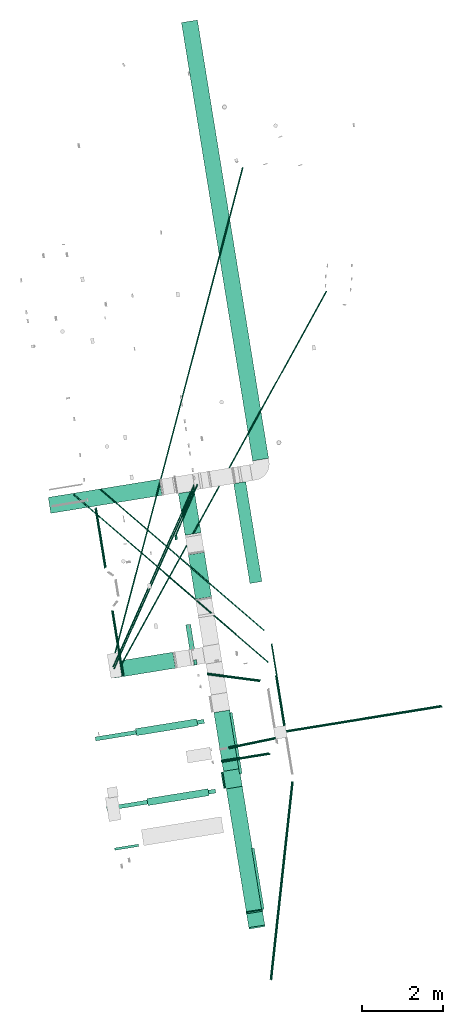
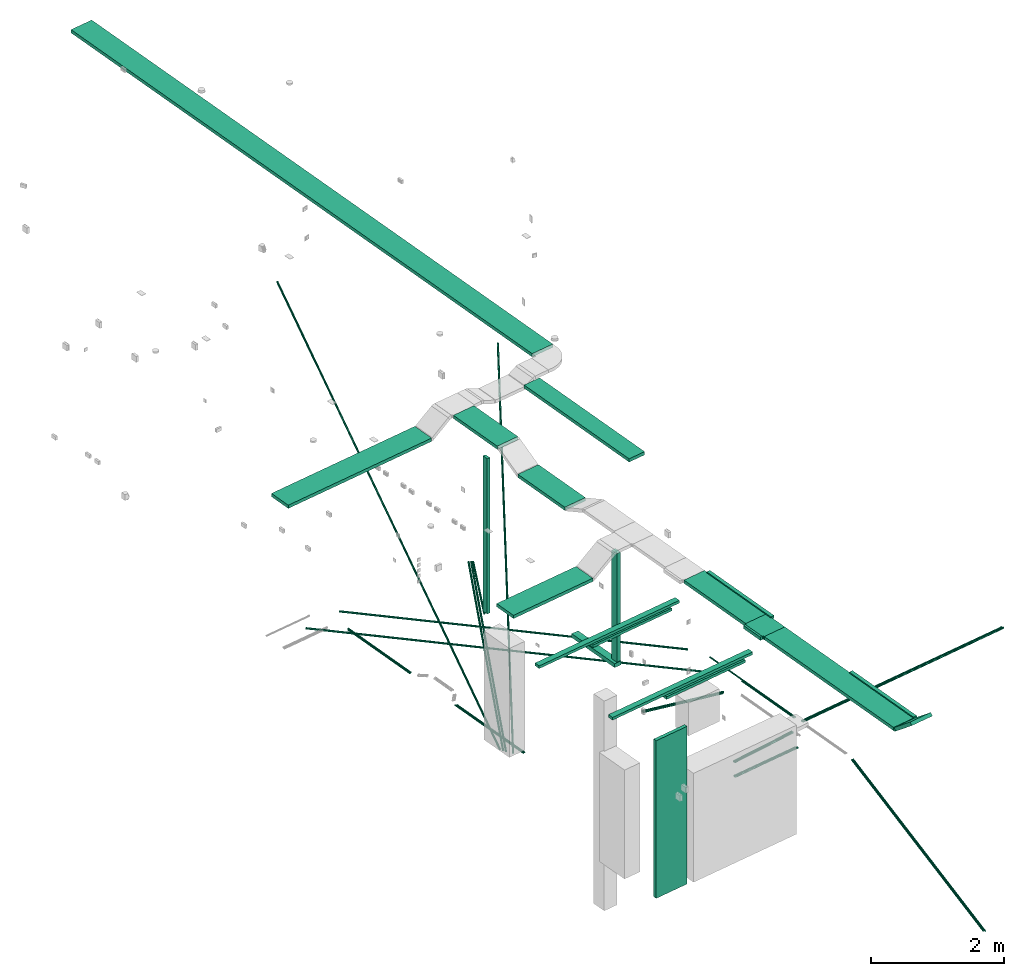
# One storey, part 1 of 33: 39 flow segments, 4 flow terminals, 2 flow fittings.
"""IFC2X3 building model written with IfcOpenShell, lengths in millimetres."""

from ifc_helpers import new_model, entity, si_unit, converted_unit, derived_unit, direction, frame, frame_2d, origin, origin_with_axes, origin_2d_with_axis, place, context, subcontext, project, spatial, polyline, circle_curve, parameter, trimmed, segment, composite_curve, rectangle, circle, outline, extrude, source, transform, mapped, material, type_object, element, save


model = new_model("IFC2X3")

# Units and contexts
plan_context = context("Plan", 3, precision=1e-05, world=origin_with_axes())
model_context = context("Model", 3, precision=0.01, world=origin(), true_north=direction((6.12323399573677e-17, 1.0)))
body_context = subcontext(model_context, "Body", "Model", "MODEL_VIEW")
ifc_project = project(units=[converted_unit("PLANEANGLEUNIT", "DEGREE", entity("IfcPositiveLengthMeasure", 0.0174532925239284), si_unit("PLANEANGLEUNIT", "RADIAN"), dimensions=[0, 0, 0, 0, 0, 0, 0]), si_unit("AREAUNIT", "SQUARE_METRE"), si_unit("LENGTHUNIT", "METRE", prefix="MILLI"), si_unit("MASSUNIT", "GRAM", prefix="KILO"), si_unit("POWERUNIT", "WATT"), si_unit("PRESSUREUNIT", "PASCAL", prefix="KILO"), si_unit("FORCEUNIT", "NEWTON", prefix="KILO"), si_unit("ELECTRICVOLTAGEUNIT", "VOLT"), si_unit("ELECTRICCURRENTUNIT", "AMPERE"), si_unit("THERMODYNAMICTEMPERATUREUNIT", "DEGREE_CELSIUS"), si_unit("TIMEUNIT", "SECOND"), si_unit("VOLUMEUNIT", "CUBIC_METRE"), derived_unit("LINEARVELOCITYUNIT", [(si_unit("LENGTHUNIT", "METRE"), 1), (si_unit("TIMEUNIT", "SECOND"), -1)]), derived_unit("VOLUMETRICFLOWRATEUNIT", [(si_unit("VOLUMEUNIT", "CUBIC_METRE"), 1), (si_unit("TIMEUNIT", "SECOND"), -1)]), derived_unit("THERMALTRANSMITTANCEUNIT", [(si_unit("POWERUNIT", "WATT"), 1), (si_unit("THERMODYNAMICTEMPERATUREUNIT", "KELVIN"), -1), (si_unit("AREAUNIT", "SQUARE_METRE"), -1)]), derived_unit("SOUNDPRESSUREUNIT", [(si_unit("PRESSUREUNIT", "PASCAL"), 1)])], contexts=[model_context, plan_context])

# Site, building, storey
site_placement = place(None, frame((-0.219946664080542, 0.12226179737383, 0.0), z_axis=(0.0, 0.0, 1.0), x_axis=(-0.160236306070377, 0.987078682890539, 0.0)))
site = spatial("IfcSite", under=ifc_project, at=site_placement, Name="Default", CompositionType="ELEMENT")
building_placement = place(site_placement, origin_with_axes())
building = spatial("IfcBuilding", under=site, at=building_placement, CompositionType="ELEMENT")
storey_placement = place(building_placement, frame((0.0, 0.0, 59000.0), z_axis=(0.0, 0.0, 1.0), x_axis=(1.0, 0.0, 0.0)))
storey = spatial("IfcBuildingStorey", under=building, at=storey_placement, Name="Nivå F", CompositionType="ELEMENT", Elevation=59000.0)

# Flow fittings
ifc_material = material(Name="<Unnamed>")
cable_carrier_fitting_type_1 = type_object("IfcCableCarrierFittingType", Name="MC_Ladder Horizontal Tee:10mm Radius", PredefinedType="NOTDEFINED", material=ifc_material)
shared_shape_1 = source(origin(), body_context, "Body", "SweptSolid", [
    extrude(outline(composite_curve([segment(polyline([(84.0, -200.0), (94.0, -200.0)]), True, "CONTINUOUS"), segment(polyline([(94.0, -200.0), (94.0, 200.0)]), True, "CONTINUOUS"), segment(polyline([(94.0, 200.0), (84.0, 200.0)]), True, "CONTINUOUS"), segment(trimmed(circle_curve(frame_2d((84.0, 210.0), x_axis=(0.0, 1.0)), 10.0), [parameter(89.9999999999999)], [parameter(180.0)], True, "PARAMETER"), False, "CONTINUOUS"), segment(polyline([(74.0, 210.0), (74.0, 220.0)]), True, "CONTINUOUS"), segment(polyline([(74.0, 220.0), (-326.0, 220.0)]), True, "CONTINUOUS"), segment(polyline([(-326.0, 220.0), (-326.0, -220.0)]), True, "CONTINUOUS"), segment(polyline([(-326.0, -220.0), (74.0, -220.0)]), True, "CONTINUOUS"), segment(polyline([(74.0, -220.0), (74.0, -210.0)]), True, "CONTINUOUS"), segment(trimmed(circle_curve(frame_2d((84.0, -210.0), x_axis=(0.0, 1.0)), 10.0), [parameter(360.0)], [parameter(89.9999999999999)], True, "PARAMETER"), False, "CONTINUOUS")], self_intersect=False)), frame((0.0, -126.0, -30.0), z_axis=(0.0, 0.0, 1.0), x_axis=(0.0, -1.0, 0.0)), (0.0, 0.0, 1.0), 60.0),
])
flow_fitting_1_placement = place(storey_placement, frame((768081.556640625, -504237.483203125, 2850.0), z_axis=(0.0, 0.0, 1.0), x_axis=(-1.0, 0.0, 0.0)))
element("IfcFlowFitting", 1, at=flow_fitting_1_placement, inside=storey, type_object=cable_carrier_fitting_type_1, material=ifc_material, Name="MC_Ladder Horizontal Tee:10mm Radius", ObjectType="MC_Ladder Horizontal Tee:10mm Radius", context=body_context, shape_type="MappedRepresentation", body=[
    mapped(shared_shape_1, transform((0.0, 0.0, 0.0), scale=1.0)),
])
cable_carrier_fitting_type_2 = type_object("IfcCableCarrierFittingType", Name="MC_Ladder Vertical Inside Bend_Short:Standard 10mm", PredefinedType="NOTDEFINED", material=ifc_material)
shared_shape_2 = source(origin(), body_context, "Body", "SweptSolid", [
    extrude(outline(composite_curve([segment(polyline([(-15.4192672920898, -34.9290710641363), (-12.419267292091, -34.9290710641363)]), True, "CONTINUOUS"), segment(trimmed(circle_curve(frame_2d((-12.419267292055, 35.0709289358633), x_axis=(0.0, -1.0)), 69.9999999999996), [parameter(0.0)], [parameter(39.0000000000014)], True, "PARAMETER"), True, "CONTINUOUS"), segment(polyline([(31.6331600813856, -19.329288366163), (33.9645979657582, -17.4413271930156)]), True, "CONTINUOUS"), segment(polyline([(33.9645979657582, -17.4413271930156), (-3.79462549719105, 29.1874304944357)]), True, "CONTINUOUS"), segment(polyline([(-3.79462549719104, 29.1874304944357), (-6.1260633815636, 27.2994693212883)]), True, "CONTINUOUS"), segment(trimmed(circle_curve(frame_2d((-12.419267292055, 35.0709289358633), x_axis=(0.0, -1.0)), 9.99999999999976), [parameter(0.0)], [parameter(39.0000000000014)], True, "PARAMETER"), False, "CONTINUOUS"), segment(polyline([(-12.4192672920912, 25.0709289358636), (-15.41926729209, 25.0709289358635)]), True, "CONTINUOUS"), segment(polyline([(-15.41926729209, 25.0709289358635), (-15.4192672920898, -34.9290710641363)]), True, "CONTINUOUS")], self_intersect=False)), frame((-1.7454756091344, 4.92907106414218, -200.0)), (0.0, 0.0, 1.0), 400.0),
])
flow_fitting_2_placement = place(storey_placement, frame((764766.753069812, -504237.483203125, 2850.0), z_axis=(-8.73357485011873e-18, -1.0, -1.07850667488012e-17), x_axis=(0.777145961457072, 0.0, -0.629320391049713)))
element("IfcFlowFitting", 2, at=flow_fitting_2_placement, inside=storey, type_object=cable_carrier_fitting_type_2, material=ifc_material, Name="MC_Ladder Vertical Inside Bend_Short:Standard 10mm", ObjectType="MC_Ladder Vertical Inside Bend_Short:Standard 10mm", context=body_context, shape_type="MappedRepresentation", body=[
    mapped(shared_shape_2, transform((0.0, 0.0, 0.0), scale=1.0)),
])

# Flow terminals
light_fixture_type_1 = type_object("IfcLightFixtureType", Name="Teknisk tak utenpåliggende T5 2x49 CL W_REFL IP44:-UP2110 Teknisk Tak T5 2x49 IP44", PredefinedType="NOTDEFINED", material=ifc_material)
shared_shape_3 = source(origin(), body_context, "Body", "SweptSolid", [
    extrude(rectangle(XDim=1530.0, YDim=175.0, at=origin_2d_with_axis()), frame((0.0, 0.0, -50.0)), (0.0, 0.0, 1.0), 50.0),
])
for number, where, z_axis, x_axis in (
    (3, (767852.20703125, -502827.503613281, 2700.0), (0.0, 0.0, 1.0), (0.0, 1.0, 0.0)),
    (4, (769602.62578125, -502827.503613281, 2700.0), (0.0, 0.0, 1.0), (0.0, 1.0, 0.0)),
):
    element("IfcFlowTerminal", number, at=place(storey_placement, frame(where, z_axis=z_axis, x_axis=x_axis)), inside=storey, type_object=light_fixture_type_1, material=ifc_material, Name="Teknisk tak utenpåliggende T5 2x49 CL W_REFL IP44:-UP2110 Teknisk Tak T5 2x49 IP44", ObjectType="Teknisk tak utenpåliggende T5 2x49 CL W_REFL IP44:-UP2110 Teknisk Tak T5 2x49 IP44", context=body_context, shape_type="MappedRepresentation", body=[
        mapped(shared_shape_3, transform((0.0, 0.0, 0.0), scale=1.0)),
    ])
light_fixture_type_2 = type_object("IfcLightFixtureType", Name="Teknisk tak utenpåliggende LED4000lm bredstrålende:-UP1113 Teknisk tak LED4000lm WB", PredefinedType="NOTDEFINED", material=ifc_material)
shared_shape_4 = source(origin(), body_context, "Body", "SweptSolid", [
    extrude(rectangle(XDim=1528.0, YDim=62.9999999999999, at=origin_2d_with_axis()), frame((0.0, 0.0, -45.0)), (0.0, 0.0, 1.0), 45.0),
])
for number, where, z_axis, x_axis in (
    (5, (765543.869644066, -504452.483203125, 2900.0), (0.0, 0.0, 1.0), (-1.0, 0.0, 0.0)),
    (6, (768936.369644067, -504452.483203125, 2900.0), (0.0, 0.0, 1.0), (-1.0, 0.0, 0.0)),
):
    element("IfcFlowTerminal", number, at=place(storey_placement, frame(where, z_axis=z_axis, x_axis=x_axis)), inside=storey, type_object=light_fixture_type_2, material=ifc_material, Name="Teknisk tak utenpåliggende LED4000lm bredstrålende:-UP1113 Teknisk tak LED4000lm WB", ObjectType="Teknisk tak utenpåliggende LED4000lm bredstrålende:-UP1113 Teknisk tak LED4000lm WB", context=body_context, shape_type="MappedRepresentation", body=[
        mapped(shared_shape_4, transform((0.0, 0.0, 0.0), scale=1.0)),
    ])

# Flow segments
cable_carrier_segment_type_1 = type_object("IfcCableCarrierSegmentType", Name="Cable Tray with Fittings:Kabelbro", PredefinedType="CABLETRAYSEGMENT")
flow_segment_1_placement = place(storey_placement, origin_with_axes())
element("IfcFlowSegment", 7, at=flow_segment_1_placement, inside=storey, type_object=cable_carrier_segment_type_1, Name="Cable Tray with Fittings:Kabelbro", ObjectType="Cable Tray with Fittings:Kabelbro", context=body_context, shape_type="SweptSolid", body=[
    extrude(rectangle(XDim=37.753650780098, YDim=399.999999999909, at=frame_2d((3.46513928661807e-11, 0.0), x_axis=(1.0, 0.0))), frame((768081.556640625, -503998.606377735, 2820.0), z_axis=(0.0, 0.0, 1.0), x_axis=(0.0, 1.0, 0.0)), (0.0, 0.0, 1.0), 60.0000000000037),
])
flow_segment_2_placement = place(storey_placement, origin_with_axes())
element("IfcFlowSegment", 8, at=flow_segment_2_placement, inside=storey, type_object=cable_carrier_segment_type_1, Name="Cable Tray with Fittings:Kabelbro", ObjectType="Cable Tray with Fittings:Kabelbro", context=body_context, shape_type="SweptSolid", body=[
    extrude(rectangle(XDim=10969.041796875, YDim=400.000000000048, at=frame_2d((6.9576344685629e-11, 0.0), x_axis=(1.0, 0.0))), frame((781242.081445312, -506177.487792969, 2870.0)), (0.0, 0.0, 1.0), 60.0000000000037),
])
flow_segment_3_placement = place(storey_placement, origin_with_axes())
element("IfcFlowSegment", 9, at=flow_segment_3_placement, inside=storey, type_object=cable_carrier_segment_type_1, Name="Cable Tray with Fittings:Kabelbro", ObjectType="Cable Tray with Fittings:Kabelbro", context=body_context, shape_type="SweptSolid", body=[
    extrude(rectangle(XDim=600.000000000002, YDim=59.9999999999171, at=origin_2d_with_axis()), frame((766834.369644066, -501377.470605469, -45.0), z_axis=(0.0, 0.0, 1.0), x_axis=(0.0, 1.0, 0.0)), (0.0, 0.0, 1.0), 2894.99999999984),
])
flow_segment_4_placement = place(storey_placement, origin_with_axes())
element("IfcFlowSegment", 10, at=flow_segment_4_placement, inside=storey, type_object=cable_carrier_segment_type_1, Name="Cable Tray with Fittings:Kabelbro", ObjectType="Cable Tray with Fittings:Kabelbro", context=body_context, shape_type="SweptSolid", body=[
    extrude(rectangle(XDim=1470.26793111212, YDim=400.000000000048, at=origin_2d_with_axis()), frame((769036.690606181, -504237.483203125, 2820.0)), (0.0, 0.0, 1.0), 60.0000000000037),
])
flow_segment_5_placement = place(storey_placement, origin_with_axes())
element("IfcFlowSegment", 11, at=flow_segment_5_placement, inside=storey, type_object=cable_carrier_segment_type_1, Name="Cable Tray with Fittings:Kabelbro", ObjectType="Cable Tray with Fittings:Kabelbro", context=body_context, shape_type="SweptSolid", body=[
    extrude(rectangle(XDim=60.0000000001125, YDim=400.000000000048, at=frame_2d((0.0, 0.0), x_axis=(0.0, 1.0))), frame((764371.101090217, -504237.483203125, 3170.39265577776), z_axis=(0.777145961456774, 0.0, -0.62932039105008), x_axis=(0.0, 1.0, 0.0)), (0.0, 0.0, 1.0), 491.944226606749),
])
flow_segment_6_placement = place(storey_placement, origin_with_axes())
element("IfcFlowSegment", 12, at=flow_segment_6_placement, inside=storey, type_object=cable_carrier_segment_type_1, Name="Cable Tray with Fittings:Kabelbro", ObjectType="Cable Tray with Fittings:Kabelbro", context=body_context, shape_type="SweptSolid", body=[
    extrude(rectangle(XDim=3077.63882791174, YDim=400.000000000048, at=origin_2d_with_axis()), frame((766322.737226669, -504237.483203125, 2820.0), z_axis=(0.0, 0.0, 1.0), x_axis=(-1.0, 0.0, 0.0)), (0.0, 0.0, 1.0), 60.0000000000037),
])
flow_segment_7_placement = place(storey_placement, origin_with_axes())
element("IfcFlowSegment", 13, at=flow_segment_7_placement, inside=storey, type_object=cable_carrier_segment_type_1, Name="Cable Tray with Fittings:Kabelbro", ObjectType="Cable Tray with Fittings:Kabelbro", context=body_context, shape_type="SweptSolid", body=[
    extrude(rectangle(XDim=2783.93090929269, YDim=399.999999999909, at=origin_2d_with_axis()), frame((775476.560546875, -502241.055712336, 2619.99999909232), z_axis=(0.0, 0.0, 1.0), x_axis=(0.0, -1.0, 0.0)), (0.0, 0.0, 1.0), 60.0000000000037),
])
flow_segment_8_placement = place(storey_placement, origin_with_axes())
element("IfcFlowSegment", 14, at=flow_segment_8_placement, inside=storey, type_object=cable_carrier_segment_type_1, Name="Cable Tray with Fittings:Kabelbro", ObjectType="Cable Tray with Fittings:Kabelbro", context=body_context, shape_type="SweptSolid", body=[
    extrude(rectangle(XDim=1539.14503923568, YDim=399.999999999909, at=frame_2d((-3.46744855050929e-11, 0.0), x_axis=(1.0, 0.0))), frame((771207.619460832, -502507.053018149, 2520.0), z_axis=(0.0, 0.0, 1.0), x_axis=(0.0, -1.0, 0.0)), (0.0, 0.0, 1.0), 60.0000000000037),
])
flow_segment_9_placement = place(storey_placement, origin_with_axes())
element("IfcFlowSegment", 15, at=flow_segment_9_placement, inside=storey, type_object=cable_carrier_segment_type_1, Name="Cable Tray with Fittings:Kabelbro", ObjectType="Cable Tray with Fittings:Kabelbro", context=body_context, shape_type="SweptSolid", body=[
    extrude(rectangle(XDim=1044.90149106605, YDim=400.000000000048, at=frame_2d((-6.93489710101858e-11, 0.0), x_axis=(1.0, 0.0))), frame((774734.109801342, -504237.483203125, 2870.0)), (0.0, 0.0, 1.0), 60.0000000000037),
])
flow_segment_10_placement = place(storey_placement, origin_with_axes())
element("IfcFlowSegment", 16, at=flow_segment_10_placement, inside=storey, type_object=cable_carrier_segment_type_1, Name="Cable Tray with Fittings:Kabelbro", ObjectType="Cable Tray with Fittings:Kabelbro", context=body_context, shape_type="SweptSolid", body=[
    extrude(rectangle(XDim=1114.86722077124, YDim=400.000000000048, at=origin_2d_with_axis()), frame((773163.629588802, -504237.483203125, 2620.0)), (0.0, 0.0, 1.0), 60.0000000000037),
])
flow_segment_11_placement = place(storey_placement, origin_with_axes())
element("IfcFlowSegment", 17, at=flow_segment_11_placement, inside=storey, type_object=cable_carrier_segment_type_1, Name="Cable Tray with Fittings:Kabelbro", ObjectType="Cable Tray with Fittings:Kabelbro", context=body_context, shape_type="SweptSolid", body=[
    extrude(rectangle(XDim=2498.9409028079, YDim=300.000000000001, at=origin_2d_with_axis()), frame((774027.090095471, -505577.114649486, 2800.0)), (0.0, 0.0, 1.0), 60.0000000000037),
])
cable_carrier_segment_type_2 = type_object("IfcCableCarrierSegmentType", Name="Conduit without Fittings:Conduit", PredefinedType="CONDUITSEGMENT")
flow_segment_12_placement = place(storey_placement, origin_with_axes())
element("IfcFlowSegment", 18, at=flow_segment_12_placement, inside=storey, type_object=cable_carrier_segment_type_2, Name="Conduit without Fittings:Conduit", ObjectType="Conduit without Fittings:Conduit", context=body_context, shape_type="SweptSolid", body=[
    extrude(circle(Radius=12.5, at=origin_2d_with_axis()), frame((763049.659297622, -504362.191541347, -57.5000000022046), z_axis=(0.963955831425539, -0.26606231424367, 0.0), x_axis=(0.26606231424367, 0.963955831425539, 0.0)), (0.0, 0.0, 1.0), 4903.7857290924),
])
flow_segment_13_placement = place(storey_placement, origin_with_axes())
element("IfcFlowSegment", 19, at=flow_segment_13_placement, inside=storey, type_object=cable_carrier_segment_type_2, Name="Conduit without Fittings:Conduit", ObjectType="Conduit without Fittings:Conduit", context=body_context, shape_type="SweptSolid", body=[
    extrude(circle(Radius=12.5, at=origin_2d_with_axis()), frame((763024.659297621, -504381.226067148, -57.5000000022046), z_axis=(0.963955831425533, -0.266062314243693, 0.0), x_axis=(0.266062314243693, 0.963955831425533, 0.0)), (0.0, 0.0, 1.0), 4926.20707131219),
])
flow_segment_14_placement = place(storey_placement, origin_with_axes())
element("IfcFlowSegment", 20, at=flow_segment_14_placement, inside=storey, type_object=cable_carrier_segment_type_2, Name="Conduit without Fittings:Conduit", ObjectType="Conduit without Fittings:Conduit", context=body_context, shape_type="SweptSolid", body=[
    extrude(circle(Radius=12.5, at=frame_2d((0.0, 8.66293703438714e-12), x_axis=(1.0, 0.0))), frame((770787.265795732, -505558.530294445, -57.500000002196), z_axis=(0.76604444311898, 0.642787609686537, 0.0), x_axis=(0.642787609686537, -0.76604444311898, 0.0)), (0.0, 0.0, 1.0), 6331.35138002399),
])
flow_segment_15_placement = place(storey_placement, origin_with_axes())
element("IfcFlowSegment", 21, at=flow_segment_15_placement, inside=storey, type_object=cable_carrier_segment_type_2, Name="Conduit without Fittings:Conduit", ObjectType="Conduit without Fittings:Conduit", context=body_context, shape_type="SweptSolid", body=[
    extrude(circle(Radius=12.5, at=frame_2d((0.0, 8.66293703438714e-12), x_axis=(1.0, 0.0))), frame((771580.537511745, -505583.530294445, -57.500000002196), z_axis=(0.766044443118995, 0.642787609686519, 0.0), x_axis=(0.642787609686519, -0.766044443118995, 0.0)), (0.0, 0.0, 1.0), 5328.44388175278),
])
flow_segment_16_placement = place(storey_placement, origin_with_axes())
element("IfcFlowSegment", 22, at=flow_segment_16_placement, inside=storey, type_object=cable_carrier_segment_type_2, Name="Conduit without Fittings:Conduit", ObjectType="Conduit without Fittings:Conduit", context=body_context, shape_type="SweptSolid", body=[
    extrude(circle(Radius=12.5, at=origin_2d_with_axis()), frame((769177.619644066, -505716.577763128, -57.5000000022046), z_axis=(1.0, 0.0, 0.0), x_axis=(0.0, 1.0, 0.0)), (0.0, 0.0, 1.0), 2037.37295175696),
])
flow_segment_17_placement = place(storey_placement, origin_with_axes())
element("IfcFlowSegment", 23, at=flow_segment_17_placement, inside=storey, type_object=cable_carrier_segment_type_2, Name="Conduit without Fittings:Conduit", ObjectType="Conduit without Fittings:Conduit", context=body_context, shape_type="SweptSolid", body=[
    extrude(circle(Radius=12.5, at=origin_2d_with_axis()), frame((769177.619644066, -505691.577763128, -57.5000000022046), z_axis=(1.0, 0.0, 0.0), x_axis=(0.0, 1.0, 0.0)), (0.0, 0.0, 1.0), 1244.1012357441),
])
flow_segment_18_placement = place(storey_placement, origin_with_axes())
element("IfcFlowSegment", 24, at=flow_segment_18_placement, inside=storey, type_object=cable_carrier_segment_type_2, Name="Conduit without Fittings:Conduit", ObjectType="Conduit without Fittings:Conduit", context=body_context, shape_type="SweptSolid", body=[
    extrude(circle(Radius=12.5, at=origin_2d_with_axis()), frame((768917.065255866, -505434.679095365, -57.5000000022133), z_axis=(-0.0433369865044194, 0.999060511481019, 0.0), x_axis=(-0.999060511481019, -0.0433369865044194, 0.0)), (0.0, 0.0, 1.0), 1169.58083999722),
])
flow_segment_19_placement = place(storey_placement, origin_with_axes())
element("IfcFlowSegment", 25, at=flow_segment_19_placement, inside=storey, type_object=cable_carrier_segment_type_2, Name="Conduit without Fittings:Conduit", ObjectType="Conduit without Fittings:Conduit", context=body_context, shape_type="SweptSolid", body=[
    extrude(circle(Radius=12.5, at=origin_2d_with_axis()), frame((768892.112208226, -505435.761502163, -57.5000000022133), z_axis=(-0.0433369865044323, 0.999060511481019, 0.0), x_axis=(-0.999060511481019, -0.0433369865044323, 0.0)), (0.0, 0.0, 1.0), 1170.6642646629),
])
flow_segment_20_placement = place(storey_placement, origin_with_axes())
element("IfcFlowSegment", 26, at=flow_segment_20_placement, inside=storey, type_object=cable_carrier_segment_type_2, Name="Conduit without Fittings:Conduit", ObjectType="Conduit without Fittings:Conduit", context=body_context, shape_type="SweptSolid", body=[
    extrude(circle(Radius=12.5, at=frame_2d((0.0, 8.66293703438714e-12), x_axis=(1.0, 0.0))), frame((770355.013424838, -505274.981663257, -57.500000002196), z_axis=(0.286769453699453, 0.957999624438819, 0.0), x_axis=(0.957999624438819, -0.286769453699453, 0.0)), (0.0, 0.0, 1.0), 1301.63029900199),
])
flow_segment_21_placement = place(storey_placement, origin_with_axes())
element("IfcFlowSegment", 27, at=flow_segment_21_placement, inside=storey, type_object=cable_carrier_segment_type_2, Name="Conduit without Fittings:Conduit", ObjectType="Conduit without Fittings:Conduit", context=body_context, shape_type="SweptSolid", body=[
    extrude(circle(Radius=12.5, at=frame_2d((0.0, 8.66293703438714e-12), x_axis=(1.0, 0.0))), frame((770374.545565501, -505299.981663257, -57.500000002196), z_axis=(0.286769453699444, 0.957999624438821, 0.0), x_axis=(0.957999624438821, -0.286769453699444, 0.0)), (0.0, 0.0, 1.0), 1327.72634263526),
])
flow_segment_22_placement = place(storey_placement, origin_with_axes())
element("IfcFlowSegment", 28, at=flow_segment_22_placement, inside=storey, type_object=cable_carrier_segment_type_2, Name="Conduit without Fittings:Conduit", ObjectType="Conduit without Fittings:Conduit", context=body_context, shape_type="SweptSolid", body=[
    extrude(circle(Radius=12.5, at=frame_2d((-3.46517481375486e-10, 8.66293703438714e-12), x_axis=(1.0, 0.0))), frame((773729.96257905, -501952.480498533, -57.5000000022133), z_axis=(1.0, 0.0, 0.0), x_axis=(0.0, 1.0, 0.0)), (0.0, 0.0, 1.0), 1480.15706501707),
])
flow_segment_23_placement = place(storey_placement, origin_with_axes())
element("IfcFlowSegment", 29, at=flow_segment_23_placement, inside=storey, type_object=cable_carrier_segment_type_2, Name="Conduit without Fittings:Conduit", ObjectType="Conduit without Fittings:Conduit", context=body_context, shape_type="SweptSolid", body=[
    extrude(circle(Radius=12.5, at=frame_2d((-3.46517481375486e-10, 0.0), x_axis=(1.0, 0.0))), frame((773740.317918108, -501977.480498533, -57.5000000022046), z_axis=(1.0, 0.0, 0.0), x_axis=(0.0, 1.0, 0.0)), (0.0, 0.0, 1.0), 1494.80172595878),
])
flow_segment_24_placement = place(storey_placement, origin_with_axes())
element("IfcFlowSegment", 30, at=flow_segment_24_placement, inside=storey, type_object=cable_carrier_segment_type_2, Name="Conduit without Fittings:Conduit", ObjectType="Conduit without Fittings:Conduit", context=body_context, shape_type="SweptSolid", body=[
    extrude(circle(Radius=12.5, at=frame_2d((0.0, -8.66293703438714e-12), x_axis=(1.0, 0.0))), frame((768565.107824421, -505216.577763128, -57.5000000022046), z_axis=(0.0, 1.0, 0.0), x_axis=(-1.0, 0.0, 0.0)), (0.0, 0.0, 1.0), 1189.10139594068),
])
flow_segment_25_placement = place(storey_placement, origin_with_axes())
element("IfcFlowSegment", 31, at=flow_segment_25_placement, inside=storey, type_object=cable_carrier_segment_type_2, Name="Conduit without Fittings:Conduit", ObjectType="Conduit without Fittings:Conduit", context=body_context, shape_type="SweptSolid", body=[
    extrude(circle(Radius=12.5, at=frame_2d((0.0, -8.66293703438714e-12), x_axis=(1.0, 0.0))), frame((768540.107824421, -505241.577763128, -57.5000000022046), z_axis=(0.0, 1.0, 0.0), x_axis=(-1.0, 0.0, 0.0)), (0.0, 0.0, 1.0), 1214.10139594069),
])
flow_segment_26_placement = place(storey_placement, origin_with_axes())
element("IfcFlowSegment", 32, at=flow_segment_26_placement, inside=storey, type_object=cable_carrier_segment_type_2, Name="Conduit without Fittings:Conduit", ObjectType="Conduit without Fittings:Conduit", context=body_context, shape_type="SweptSolid", body=[
    extrude(circle(Radius=12.5, at=origin_2d_with_axis()), frame((769040.119644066, -509612.848464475, -57.5000000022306), z_axis=(0.0, 1.0, 0.0), x_axis=(1.0, 0.0, 0.0)), (0.0, 0.0, 1.0), 3883.77070134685),
])
flow_segment_27_placement = place(storey_placement, origin_with_axes())
element("IfcFlowSegment", 33, at=flow_segment_27_placement, inside=storey, type_object=cable_carrier_segment_type_2, Name="Conduit without Fittings:Conduit", ObjectType="Conduit without Fittings:Conduit", context=body_context, shape_type="SweptSolid", body=[
    extrude(circle(Radius=12.5, at=origin_2d_with_axis()), frame((769015.119644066, -509623.203803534, -57.5000000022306), z_axis=(0.0, 1.0, 0.0), x_axis=(1.0, 0.0, 0.0)), (0.0, 0.0, 1.0), 3894.12604040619),
])
flow_segment_28_placement = place(storey_placement, origin_with_axes())
element("IfcFlowSegment", 34, at=flow_segment_28_placement, inside=storey, type_object=cable_carrier_segment_type_2, Name="Conduit without Fittings:Conduit", ObjectType="Conduit without Fittings:Conduit", context=body_context, shape_type="SweptSolid", body=[
    extrude(circle(Radius=12.5, at=frame_2d((0.0, 8.66293703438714e-12), x_axis=(1.0, 0.0))), frame((771236.569159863, -501777.697801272, -57.5000000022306), z_axis=(0.836552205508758, -0.547887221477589, 0.0), x_axis=(0.547887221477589, 0.836552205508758, 0.0)), (0.0, 0.0, 1.0), 4995.2098011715),
])
flow_segment_29_placement = place(storey_placement, origin_with_axes())
element("IfcFlowSegment", 35, at=flow_segment_29_placement, inside=storey, type_object=cable_carrier_segment_type_2, Name="Conduit without Fittings:Conduit", ObjectType="Conduit without Fittings:Conduit", context=body_context, shape_type="SweptSolid", body=[
    extrude(circle(Radius=12.5, at=frame_2d((0.0, 8.66293703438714e-12), x_axis=(1.0, 0.0))), frame((771135.987893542, -501833.450907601, -57.5000000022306), z_axis=(0.788010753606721, -0.61566147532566, 0.0), x_axis=(0.61566147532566, 0.788010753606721, 0.0)), (0.0, 0.0, 1.0), 10740.0000000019),
])
flow_segment_30_placement = place(storey_placement, origin_with_axes())
element("IfcFlowSegment", 36, at=flow_segment_30_placement, inside=storey, type_object=cable_carrier_segment_type_2, Name="Conduit without Fittings:Conduit", ObjectType="Conduit without Fittings:Conduit", context=body_context, shape_type="SweptSolid", body=[
    extrude(circle(Radius=12.5, at=frame_2d((0.0, 8.66293703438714e-12), x_axis=(1.0, 0.0))), frame((771335.37560669, -501740.474890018, -57.5000000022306), z_axis=(0.913927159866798, -0.405878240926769, 0.0), x_axis=(0.405878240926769, 0.913927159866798, 0.0)), (0.0, 0.0, 1.0), 12706.482116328),
])
flow_segment_31_placement = place(storey_placement, origin_with_axes())
element("IfcFlowSegment", 37, at=flow_segment_31_placement, inside=storey, type_object=cable_carrier_segment_type_2, Name="Conduit without Fittings:Conduit", ObjectType="Conduit without Fittings:Conduit", context=body_context, shape_type="SweptSolid", body=[
    extrude(circle(Radius=12.5, at=frame_2d((0.0, 8.66293703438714e-12), x_axis=(1.0, 0.0))), frame((774238.283649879, -503808.044759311, -57.5000000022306), z_axis=(0.846946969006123, -0.531677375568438, 0.0), x_axis=(0.531677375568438, 0.846946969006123, 0.0)), (0.0, 0.0, 1.0), 1372.50113248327),
])
flow_segment_32_placement = place(storey_placement, origin_with_axes())
element("IfcFlowSegment", 38, at=flow_segment_32_placement, inside=storey, type_object=cable_carrier_segment_type_2, Name="Conduit without Fittings:Conduit", ObjectType="Conduit without Fittings:Conduit", context=body_context, shape_type="SweptSolid", body=[
    extrude(circle(Radius=12.5, at=frame_2d((-5.79759926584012e-11, 8.66293703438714e-12), x_axis=(1.0, 0.0))), frame((771288.016836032, -501762.712458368, -57.5000000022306), z_axis=(0.836552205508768, -0.547887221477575, 0.0), x_axis=(0.547887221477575, 0.836552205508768, 0.0)), (0.0, 0.0, 1.0), 4959.59711279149),
])
flow_segment_33_placement = place(storey_placement, origin_with_axes())
element("IfcFlowSegment", 39, at=flow_segment_33_placement, inside=storey, type_object=cable_carrier_segment_type_2, Name="Conduit without Fittings:Conduit", ObjectType="Conduit without Fittings:Conduit", context=body_context, shape_type="SweptSolid", body=[
    extrude(circle(Radius=12.5, at=frame_2d((0.0, -8.66293703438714e-12), x_axis=(1.0, 0.0))), frame((771034.180282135, -501977.480498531, -57.500000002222), z_axis=(1.0, 0.0, 0.0), x_axis=(0.0, -1.0, 0.0)), (0.0, 0.0, 1.0), 1615.19267974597),
])
flow_segment_34_placement = place(storey_placement, origin_with_axes())
element("IfcFlowSegment", 40, at=flow_segment_34_placement, inside=storey, type_object=cable_carrier_segment_type_2, Name="Conduit without Fittings:Conduit", ObjectType="Conduit without Fittings:Conduit", context=body_context, shape_type="SweptSolid", body=[
    extrude(circle(Radius=12.5, at=frame_2d((-4.8512447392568e-10, 0.0), x_axis=(1.0, 0.0))), frame((771034.180282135, -501952.480498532, -57.5000000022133), z_axis=(1.0, 0.0, 0.0), x_axis=(0.0, 1.0, 0.0)), (0.0, 0.0, 1.0), 1625.54801880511),
])
cable_carrier_segment_type_3 = type_object("IfcCableCarrierSegmentType", Name="Cable Tray with Fittings:Armaturskinne", PredefinedType="CABLETRAYSEGMENT")
flow_segment_35_placement = place(storey_placement, origin_with_axes())
element("IfcFlowSegment", 41, at=flow_segment_35_placement, inside=storey, type_object=cable_carrier_segment_type_3, Name="Cable Tray with Fittings:Armaturskinne", ObjectType="Cable Tray with Fittings:Armaturskinne", context=body_context, shape_type="SweptSolid", body=[
    extrude(rectangle(XDim=2720.00000000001, YDim=100.000000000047, at=frame_2d((-3.46744855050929e-11, 0.0), x_axis=(1.0, 0.0))), frame((769597.628125, -502405.192619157, 2700.0), z_axis=(0.0, 0.0, 1.0), x_axis=(0.0, -1.0, 0.0)), (0.0, 0.0, 1.0), 50.000000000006),
])
flow_segment_36_placement = place(storey_placement, origin_with_axes())
element("IfcFlowSegment", 42, at=flow_segment_36_placement, inside=storey, type_object=cable_carrier_segment_type_3, Name="Cable Tray with Fittings:Armaturskinne", ObjectType="Cable Tray with Fittings:Armaturskinne", context=body_context, shape_type="SweptSolid", body=[
    extrude(rectangle(XDim=2720.00000000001, YDim=100.000000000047, at=frame_2d((-3.46744855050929e-11, 0.0), x_axis=(1.0, 0.0))), frame((767852.20703125, -502405.192619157, 2700.0), z_axis=(0.0, 0.0, 1.0), x_axis=(0.0, -1.0, 0.0)), (0.0, 0.0, 1.0), 50.000000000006),
])
cable_carrier_segment_type_4 = type_object("IfcCableCarrierSegmentType", Name="Cable Tray with Fittings:VEGGKANAL", PredefinedType="CABLETRAYSEGMENT")
flow_segment_37_placement = place(storey_placement, origin_with_axes())
element("IfcFlowSegment", 43, at=flow_segment_37_placement, inside=storey, type_object=cable_carrier_segment_type_4, Name="Cable Tray with Fittings:VEGGKANAL", ObjectType="Cable Tray with Fittings:VEGGKANAL", context=body_context, shape_type="SweptSolid", body=[
    extrude(rectangle(XDim=71.9999999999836, YDim=123.000000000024, at=frame_2d((6.93027857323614e-11, 0.0), x_axis=(1.0, 0.0))), frame((771072.619460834, -503783.229552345, 825.999999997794), z_axis=(0.0, 0.0, 1.0), x_axis=(0.0, -1.0, 0.0)), (0.0, 0.0, 1.0), 1994.00000000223),
])
flow_segment_38_placement = place(storey_placement, origin_with_axes())
element("IfcFlowSegment", 44, at=flow_segment_38_placement, inside=storey, type_object=cable_carrier_segment_type_4, Name="Cable Tray with Fittings:VEGGKANAL", ObjectType="Cable Tray with Fittings:VEGGKANAL", context=body_context, shape_type="SweptSolid", body=[
    extrude(rectangle(XDim=1019.99999999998, YDim=123.000000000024, at=origin_2d_with_axis()), frame((771512.619644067, -503757.729552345, 753.999999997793)), (0.0, 0.0, 1.0), 72.000000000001),
])
flow_segment_39_placement = place(storey_placement, origin_with_axes())
element("IfcFlowSegment", 45, at=flow_segment_39_placement, inside=storey, type_object=cable_carrier_segment_type_4, Name="Cable Tray with Fittings:VEGGKANAL", ObjectType="Cable Tray with Fittings:VEGGKANAL", context=body_context, shape_type="SweptSolid", body=[
    extrude(rectangle(XDim=50.0000000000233, YDim=100.000000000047, at=origin_2d_with_axis()), frame((774190.119460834, -503808.229552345, 0.0), z_axis=(0.0, 0.0, 1.0), x_axis=(0.0, -1.0, 0.0)), (0.0, 0.0, 1.0), 2850.0),
])

save(model, "model.ifc")
